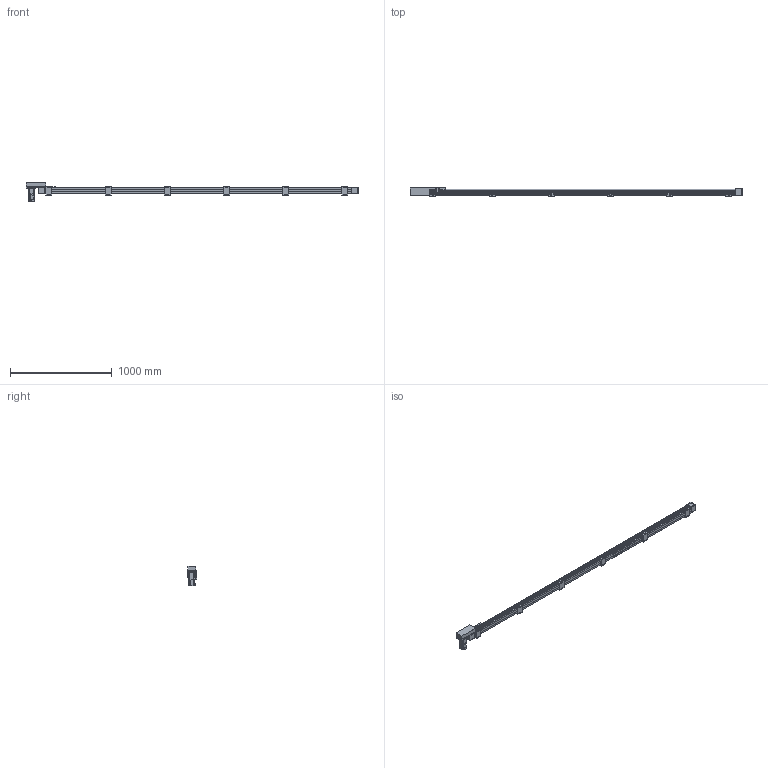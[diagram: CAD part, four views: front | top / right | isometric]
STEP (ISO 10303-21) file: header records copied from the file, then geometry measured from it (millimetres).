
FILE_DESCRIPTION(/* description */ ('STEP AP214'),/* implementation_level */ '2;1');
FILE_NAME(/* name */ 'SK60-P13-S2850-R-T40-C1-N(0)',/* time_stamp */ '2023-04-06T04:28:59+02:00',/* author */ ('License CC BY-ND 4.0'),/* organization */ ('CADENAS'),/* preprocessor_version */ 'ST-DEVELOPER v19.3',/* originating_system */ 'PARTsolutions',/* authorisation */ ' ');
FILE_SCHEMA (('AUTOMOTIVE_DESIGN {1 0 10303 214 3 1 1}'));
Length unit declared in the file: millimetre
Products named in the file (10): SK60-P13-S2850-R-T40-C1-N(0); PSC140-sensor; SK60-S450_seat; SK60-S450-BL-C1_slider; SK60_body3; SK60_body6; SK60-BL_body2; T40-p1; SK60-R_fb; SK60-S2850-R-C1_body
Assembly tree (20 placements, depth 2):
  SK60-P13-S2850-R-T40-C1-N(0)
    PSC140-sensor  x3
    SK60-S450_seat  x6
    SK60-S450-BL-C1_slider
    SK60_body3  x3
    SK60_body6  x2
    SK60-BL_body2  x2
    T40-p1
    SK60-R_fb
    SK60-S2850-R-C1_body
Bounding box: 3270.5 x 90 x 189.7 mm (x, y, z)
Volume: 11903345.8 mm3; surface area: 1393091.3 mm2
Topology: 20 solids, 20 shells, 986 faces, 2440 edges, 1605 vertices
Faces by surface type: plane 620, cylinder 326, cone 38, torus 2
Full cylindrical faces by diameter (mm): 2.8 x3, 3.3 x4, 4 x2, 4.5 x30, 4.6 x3, 4.917 x32, 5 x6, 5.478 x4, 5.5 x35, 6.5 x12, 7 x2, 8 x4, 8.5 x4, 9.988 x4, 10 x24, 14 x1, 47 x3, 50 x2
Entity records: 18687 total; most frequent: DIRECTION 3192, CARTESIAN_POINT 3154, ORIENTED_EDGE 2940, EDGE_CURVE 1470, AXIS2_PLACEMENT_3D 1072, LINE 1048, VECTOR 1048, VERTEX_POINT 1034
